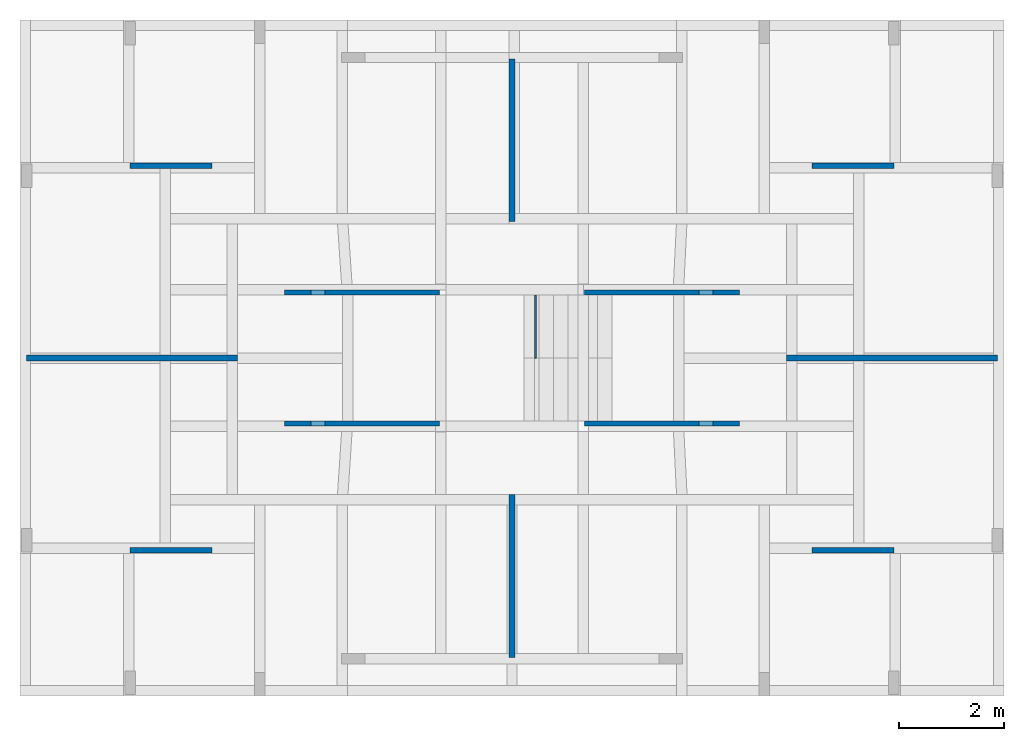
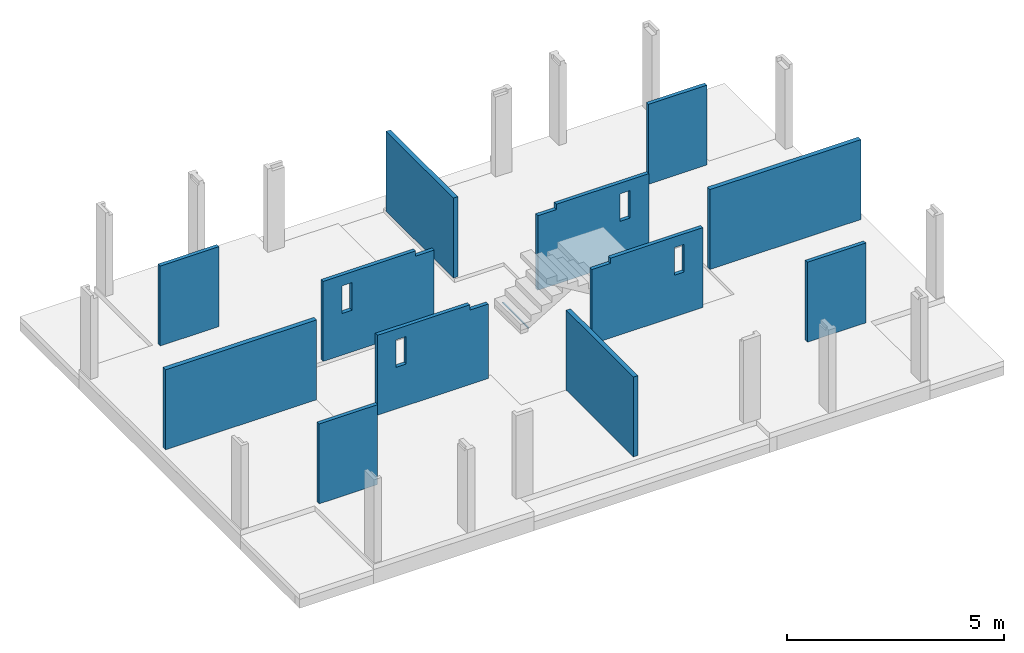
# One storey, part 5 of 7: 12 walls, 1 stair, 6 openings.
"""IFC4 building model written with IfcOpenShell, lengths in metres."""

from ifc_helpers import new_model, entity, si_unit, converted_unit, derived_unit, direction, frame, origin, place, context, subcontext, project, spatial, indexed_curve, outline, extrude, polygons, material, type_object, element, save


model = new_model("IFC4")

# Units and contexts
model_context = context("Model", 3, precision=1e-05, world=origin(), true_north=direction((6.123031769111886e-17, 1.0)))
body_context = subcontext(model_context, "Body", "Model", "MODEL_VIEW")
ifc_project = project(units=[si_unit("LENGTHUNIT", "METRE"), si_unit("AREAUNIT", "SQUARE_METRE"), si_unit("VOLUMEUNIT", "CUBIC_METRE"), converted_unit("PLANEANGLEUNIT", "DEGREE", entity("IfcRatioMeasure", 0.017453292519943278), si_unit("PLANEANGLEUNIT", "RADIAN"), dimensions=[0, 0, 0, 0, 0, 0, 0]), si_unit("MASSUNIT", "GRAM", prefix="KILO"), derived_unit("MASSDENSITYUNIT", [(si_unit("MASSUNIT", "GRAM", prefix="KILO"), 1), (si_unit("LENGTHUNIT", "METRE"), -3)]), derived_unit("IONCONCENTRATIONUNIT", [(si_unit("MASSUNIT", "GRAM", prefix="KILO"), 1), (si_unit("LENGTHUNIT", "METRE"), -3)]), derived_unit("MOMENTOFINERTIAUNIT", [(si_unit("LENGTHUNIT", "METRE"), 4)]), si_unit("TIMEUNIT", "SECOND"), si_unit("FREQUENCYUNIT", "HERTZ"), si_unit("THERMODYNAMICTEMPERATUREUNIT", "DEGREE_CELSIUS"), derived_unit("THERMALTRANSMITTANCEUNIT", [(si_unit("MASSUNIT", "GRAM", prefix="KILO"), 1), (si_unit("THERMODYNAMICTEMPERATUREUNIT", "KELVIN"), -1), (si_unit("TIMEUNIT", "SECOND"), -3)]), derived_unit("THERMALCONDUCTANCEUNIT", [(si_unit("MASSUNIT", "GRAM", prefix="KILO"), 1), (si_unit("THERMODYNAMICTEMPERATUREUNIT", "KELVIN"), -1), (si_unit("TIMEUNIT", "SECOND"), -3), (si_unit("LENGTHUNIT", "METRE"), 1)]), derived_unit("VOLUMETRICFLOWRATEUNIT", [(si_unit("LENGTHUNIT", "METRE"), 3), (si_unit("TIMEUNIT", "SECOND"), -1)]), derived_unit("MASSFLOWRATEUNIT", [(si_unit("MASSUNIT", "GRAM", prefix="KILO"), 1), (si_unit("TIMEUNIT", "SECOND"), -1)]), derived_unit("ROTATIONALFREQUENCYUNIT", [(si_unit("TIMEUNIT", "SECOND"), -1)]), si_unit("ELECTRICCURRENTUNIT", "AMPERE"), si_unit("ELECTRICVOLTAGEUNIT", "VOLT"), si_unit("POWERUNIT", "WATT"), si_unit("FORCEUNIT", "NEWTON", prefix="KILO"), si_unit("ILLUMINANCEUNIT", "LUX"), si_unit("LUMINOUSFLUXUNIT", "LUMEN"), si_unit("LUMINOUSINTENSITYUNIT", "CANDELA"), derived_unit("USERDEFINED", [(si_unit("MASSUNIT", "GRAM", prefix="KILO"), -1), (si_unit("LENGTHUNIT", "METRE"), -2), (si_unit("TIMEUNIT", "SECOND"), 3), (si_unit("LUMINOUSFLUXUNIT", "LUMEN"), 1)]), derived_unit("USERDEFINED", [(si_unit("MASSUNIT", "GRAM", prefix="KILO"), 1), (si_unit("TIMEUNIT", "SECOND"), -3), (si_unit("LENGTHUNIT", "METRE"), 3), (si_unit("ELECTRICCURRENTUNIT", "AMPERE"), -2)]), derived_unit("SOUNDPOWERUNIT", [(si_unit("MASSUNIT", "GRAM", prefix="KILO"), 1), (si_unit("TIMEUNIT", "SECOND"), -3), (si_unit("LENGTHUNIT", "METRE"), 2)]), derived_unit("SOUNDPRESSUREUNIT", [(si_unit("MASSUNIT", "GRAM", prefix="KILO"), 1), (si_unit("LENGTHUNIT", "METRE"), -1), (si_unit("TIMEUNIT", "SECOND"), -2)]), derived_unit("LINEARVELOCITYUNIT", [(si_unit("LENGTHUNIT", "METRE"), 1), (si_unit("TIMEUNIT", "SECOND"), -1)]), si_unit("PRESSUREUNIT", "PASCAL"), derived_unit("USERDEFINED", [(si_unit("MASSUNIT", "GRAM", prefix="KILO"), 1), (si_unit("LENGTHUNIT", "METRE"), -2), (si_unit("TIMEUNIT", "SECOND"), -2)]), derived_unit("LINEARFORCEUNIT", [(si_unit("MASSUNIT", "GRAM", prefix="KILO"), 1), (si_unit("TIMEUNIT", "SECOND"), -2)]), derived_unit("PLANARFORCEUNIT", [(si_unit("MASSUNIT", "GRAM", prefix="KILO"), 1), (si_unit("LENGTHUNIT", "METRE"), -1), (si_unit("TIMEUNIT", "SECOND"), -2)]), derived_unit("SPECIFICHEATCAPACITYUNIT", [(si_unit("THERMODYNAMICTEMPERATUREUNIT", "KELVIN"), -1), (si_unit("LENGTHUNIT", "METRE"), 2), (si_unit("TIMEUNIT", "SECOND"), -2)]), derived_unit("HEATINGVALUEUNIT", [(si_unit("LENGTHUNIT", "METRE"), 2), (si_unit("TIMEUNIT", "SECOND"), -2)]), derived_unit("VAPORPERMEABILITYUNIT", [(si_unit("LENGTHUNIT", "METRE"), -1), (si_unit("TIMEUNIT", "SECOND"), 1)]), derived_unit("DYNAMICVISCOSITYUNIT", [(si_unit("MASSUNIT", "GRAM", prefix="KILO"), 1), (si_unit("TIMEUNIT", "SECOND"), -1), (si_unit("LENGTHUNIT", "METRE"), -1)]), derived_unit("THERMALEXPANSIONCOEFFICIENTUNIT", [(si_unit("THERMODYNAMICTEMPERATUREUNIT", "KELVIN"), -1)]), derived_unit("MODULUSOFELASTICITYUNIT", [(si_unit("MASSUNIT", "GRAM", prefix="KILO"), 1), (si_unit("LENGTHUNIT", "METRE"), -1), (si_unit("TIMEUNIT", "SECOND"), -2)]), derived_unit("ISOTHERMALMOISTURECAPACITYUNIT", [(si_unit("LENGTHUNIT", "METRE"), 3), (si_unit("MASSUNIT", "GRAM", prefix="KILO"), -1)]), derived_unit("MOISTUREDIFFUSIVITYUNIT", [(si_unit("TIMEUNIT", "SECOND"), -1), (si_unit("LENGTHUNIT", "METRE"), 2)])], contexts=[model_context])

# Site, building, storey
site_placement = place(None, origin())
site = spatial("IfcSite", under=ifc_project, at=site_placement, Name="Default", CompositionType="ELEMENT")
building_placement = place(site_placement, origin())
building = spatial("IfcBuilding", under=site, at=building_placement, Name="Las nubes", CompositionType="ELEMENT")
storey_placement = place(building_placement, origin())
storey = spatial("IfcBuildingStorey", under=building, at=storey_placement, Name="CIMENTACIÓN", CompositionType="ELEMENT", Elevation=-3.522347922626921e-13)

# Walls
ifc_material_1 = material(Name="Concrete - Cast-in-Place Concrete - 35 MPa", Category="Materials")
wall_type_1 = type_object("IfcWallType", Name="Basic Wall:MURO 12cm", PredefinedType="STANDARD")
wall_1_placement = place(storey_placement, frame((9.322500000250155, -12.129999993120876, 0.0), z_axis=(0.0, 0.0, 1.0), x_axis=(0.0, 1.0, 0.0)))
element("IfcWall", 1, at=wall_1_placement, inside=storey, type_object=wall_type_1, material=ifc_material_1, Name="Basic Wall:MURO 12cm", ObjectType="Basic Wall:MURO 12cm", PredefinedType="NOTDEFINED", context=body_context, shape_type="SweptSolid", body=[
    extrude(outline(indexed_curve([(3.105, 0.060000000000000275), (-1.0151879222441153e-16, 0.060000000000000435), (1.0151879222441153e-16, -0.060000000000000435), (3.105, -0.0600000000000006), (3.105, 0.060000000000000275)], self_intersect=False)), origin(), (0.0, 0.0, 1.0), 2.25),
])
wall_2_placement = place(storey_placement, frame((9.322500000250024, -0.7200000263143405, 0.0), z_axis=(0.0, 0.0, 1.0), x_axis=(0.0, -1.0, 0.0)))
element("IfcWall", 2, at=wall_2_placement, inside=storey, type_object=wall_type_1, material=ifc_material_1, Name="Basic Wall:MURO 12cm", ObjectType="Basic Wall:MURO 12cm", PredefinedType="NOTDEFINED", context=body_context, shape_type="SweptSolid", body=[
    extrude(outline(indexed_curve([(3.1050000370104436, 0.060000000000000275), (3.383959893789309e-17, 0.060000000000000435), (1.0151879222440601e-16, -0.060000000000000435), (3.1050000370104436, -0.0600000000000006), (3.1050000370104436, 0.060000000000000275)], self_intersect=False)), origin(), (0.0, 0.0, 1.0), 2.25),
])
wall_3_placement = place(storey_placement, frame((18.57750000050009, -6.425000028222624, 0.0), z_axis=(0.0, 0.0, 1.0), x_axis=(-1.0, 0.0, 0.0)))
element("IfcWall", 3, at=wall_3_placement, inside=storey, type_object=wall_type_1, material=ifc_material_1, Name="Basic Wall:MURO 12cm", ObjectType="Basic Wall:MURO 12cm", PredefinedType="NOTDEFINED", context=body_context, shape_type="SweptSolid", body=[
    extrude(outline(indexed_curve([(4.01999999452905, 0.06000000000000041), (-1.934650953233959e-16, 0.060000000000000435), (1.934650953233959e-16, -0.060000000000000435), (4.01999999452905, -0.06000000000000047), (4.01999999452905, 0.06000000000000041)], self_intersect=False)), origin(), (0.0, 0.0, 1.0), 2.25),
])
wall_4_placement = place(storey_placement, frame((0.06750000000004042, -6.425000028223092, 0.0)))
element("IfcWall", 4, at=wall_4_placement, inside=storey, type_object=wall_type_1, material=ifc_material_1, Name="Basic Wall:MURO 12cm", ObjectType="Basic Wall:MURO 12cm", PredefinedType="NOTDEFINED", context=body_context, shape_type="SweptSolid", body=[
    extrude(outline(indexed_curve([(4.0199999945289, 0.060000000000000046), (-1.9797595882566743e-18, 0.060000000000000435), (1.9797595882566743e-18, -0.060000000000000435), (4.0199999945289, -0.06000000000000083), (4.0199999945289, 0.060000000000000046)], self_intersect=False)), origin(), (0.0, 0.0, 1.0), 2.25),
])
wall_type_2 = type_object("IfcWallType", Name="Basic Wall:MURO 10cm", PredefinedType="STANDARD")
wall_5_placement = place(storey_placement, frame((3.602499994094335, -10.090000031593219, 0.0), z_axis=(0.0, 0.0, 1.0), x_axis=(-1.0, 0.0, 0.0)))
element("IfcWall", 5, at=wall_5_placement, inside=storey, type_object=wall_type_2, material=ifc_material_1, Name="Basic Wall:MURO 10cm", ObjectType="Basic Wall:MURO 10cm", PredefinedType="NOTDEFINED", context=body_context, shape_type="SweptSolid", body=[
    extrude(outline(indexed_curve([(1.5599999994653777, 0.049999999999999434), (-1.3794485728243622e-16, 0.04999999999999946), (1.3794485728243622e-16, -0.04999999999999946), (1.5599999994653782, -0.04999999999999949), (1.5599999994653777, 0.049999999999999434)], self_intersect=False)), origin(), (0.0, 0.0, 1.0), 2.25),
])
wall_6_placement = place(storey_placement, frame((15.04250000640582, -10.090000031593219, 0.0)))
element("IfcWall", 6, at=wall_6_placement, inside=storey, type_object=wall_type_2, material=ifc_material_1, Name="Basic Wall:MURO 10cm", ObjectType="Basic Wall:MURO 10cm", PredefinedType="NOTDEFINED", context=body_context, shape_type="SweptSolid", body=[
    extrude(outline(indexed_curve([(1.5599999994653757, 0.049999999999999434), (-1.3794485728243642e-16, 0.04999999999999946), (1.3794485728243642e-16, -0.04999999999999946), (1.5599999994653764, -0.04999999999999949), (1.5599999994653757, 0.049999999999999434)], self_intersect=False)), origin(), (0.0, 0.0, 1.0), 2.25),
])
wall_7_placement = place(storey_placement, frame((15.042500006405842, -2.7600000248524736, 0.0)))
element("IfcWall", 7, at=wall_7_placement, inside=storey, type_object=wall_type_2, material=ifc_material_1, Name="Basic Wall:MURO 10cm", ObjectType="Basic Wall:MURO 10cm", PredefinedType="NOTDEFINED", context=body_context, shape_type="SweptSolid", body=[
    extrude(outline(indexed_curve([(1.5600000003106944, 0.05), (-1.5618275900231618e-16, 0.05), (1.5618275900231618e-16, -0.05), (1.5600000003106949, -0.05), (1.5600000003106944, 0.05)], self_intersect=False)), origin(), (0.0, 0.0, 1.0), 2.25),
])
wall_8_placement = place(storey_placement, frame((3.6024999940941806, -2.7600000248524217, 0.0), z_axis=(0.0, 0.0, 1.0), x_axis=(-1.0, 0.0, 0.0)))
element("IfcWall", 8, at=wall_8_placement, inside=storey, type_object=wall_type_2, material=ifc_material_1, Name="Basic Wall:MURO 10cm", ObjectType="Basic Wall:MURO 10cm", PredefinedType="NOTDEFINED", context=body_context, shape_type="SweptSolid", body=[
    extrude(outline(indexed_curve([(1.5600000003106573, 0.05), (-1.5618275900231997e-16, 0.05), (1.5618275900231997e-16, -0.05), (1.5600000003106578, -0.05), (1.5600000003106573, 0.05)], self_intersect=False)), origin(), (0.0, 0.0, 1.0), 2.25),
])

# Wall, opening
wall_9_placement = place(storey_placement, frame((13.657500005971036, -5.17500002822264, 0.0), z_axis=(0.0, 0.0, 1.0), x_axis=(-1.0, 0.0, 0.0)))
wall_9 = element("IfcWall", 9, at=wall_9_placement, inside=storey, type_object=wall_type_2, material=ifc_material_1, Name="Basic Wall:MURO 10cm", ObjectType="Basic Wall:MURO 10cm", PredefinedType="NOTDEFINED", context=body_context, shape_type="Tessellation", body=[
    polygons([(8.007304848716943e-16, -0.04999999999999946, 0.0), (2.9550296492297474, -0.04999999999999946, -3.0340084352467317e-27), (2.9550296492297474, -0.04999999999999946, 2.1000000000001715), (2.4600000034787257, -0.04999999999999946, 2.1000000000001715), (2.4600000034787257, -0.04999999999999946, 2.25), (8.007304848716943e-16, -0.04999999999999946, 2.25), (0.7651124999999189, -0.04999999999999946, 1.1737125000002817), (0.4999999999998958, -0.04999999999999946, 1.1737125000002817), (0.4999999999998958, -0.04999999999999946, 1.9500000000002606), (0.7651124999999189, -0.04999999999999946, 1.9500000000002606), (2.9550296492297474, 0.050000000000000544, -3.0340084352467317e-27), (4.782886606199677e-16, 0.050000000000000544, 0.0), (4.782886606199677e-16, 0.050000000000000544, 2.25), (2.4600000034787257, 0.050000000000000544, 2.25), (2.4600000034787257, 0.05000000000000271, 2.1000000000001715), (2.9550296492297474, 0.050000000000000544, 2.1000000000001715), (0.4999999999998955, 0.050000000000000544, 1.1737125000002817), (0.7651124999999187, 0.050000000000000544, 1.1737125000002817), (0.7651124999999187, 0.050000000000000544, 1.9500000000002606), (0.4999999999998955, 0.050000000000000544, 1.9500000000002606)], [[[1, 2, 3, 4, 5, 6], [7, 8, 9, 10]], [[11, 12, 13, 14, 15, 16], [17, 18, 19, 20]], [[4, 15, 14, 5]], [[15, 4, 3, 16]], [[2, 1, 12, 11]], [[2, 11, 16, 3]], [[13, 6, 5, 14]], [[1, 6, 13, 12]], [[8, 7, 18, 17]], [[9, 8, 17, 20]], [[10, 9, 20, 19]], [[7, 10, 19, 18]]], closed=True),
])
opening_1_placement = place(wall_9_placement, origin())
element("IfcOpeningElement", 10, at=opening_1_placement, cuts=wall_9, Name="Basic Wall:MURO 10cm", PredefinedType="OPENING", context=body_context, shape_type="SweptSolid", body=[
    extrude(outline(indexed_curve([(-0.38814374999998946, -0.1325562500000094), (0.3881437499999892, -0.1325562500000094), (0.3881437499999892, 0.13255625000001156), (-0.38814374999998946, 0.13255625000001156), (-0.38814374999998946, -0.1325562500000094)], self_intersect=False)), frame((0.6325562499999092, 0.04999999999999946, 1.5618562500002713), z_axis=(0.0, -1.0, 0.0), x_axis=(0.0, 0.0, 1.0)), (0.0, 0.0, 1.0), 0.1),
])

wall_10_placement = place(storey_placement, frame((7.942500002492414, -7.675000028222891, 0.0), z_axis=(0.0, 0.0, 1.0), x_axis=(-1.0, 0.0, 0.0)))
wall_10 = element("IfcWall", 11, at=wall_10_placement, inside=storey, type_object=wall_type_2, material=ifc_material_1, Name="Basic Wall:MURO 10cm", ObjectType="Basic Wall:MURO 10cm", PredefinedType="NOTDEFINED", context=body_context, shape_type="Tessellation", body=[
    polygons([(3.481298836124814e-16, -0.04999999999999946, -1.4920577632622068e-43), (2.9550000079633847, -0.04999999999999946, -3.0340084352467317e-27), (2.9550000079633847, -0.04999999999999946, 2.25), (0.49499999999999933, -0.050000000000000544, 2.25), (0.49499999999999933, -0.04999999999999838, 2.1000000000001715), (3.481298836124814e-16, -0.04999999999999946, 2.1000000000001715), (2.455000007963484, -0.050000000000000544, 1.1737125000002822), (2.189887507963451, -0.04999999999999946, 1.1737125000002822), (2.189887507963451, -0.04999999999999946, 1.9500000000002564), (2.455000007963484, -0.050000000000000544, 1.9500000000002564), (2.9550000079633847, 0.04999999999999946, -3.0340084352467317e-27), (4.947108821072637e-16, 0.050000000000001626, -1.4920577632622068e-43), (4.947108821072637e-16, 0.050000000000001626, 2.1000000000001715), (0.4949999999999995, 0.05000000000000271, 2.1000000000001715), (0.4949999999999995, 0.050000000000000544, 2.25), (2.9550000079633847, 0.04999999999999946, 2.25), (2.189887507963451, 0.050000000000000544, 1.1737125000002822), (2.455000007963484, 0.04999999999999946, 1.1737125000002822), (2.455000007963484, 0.04999999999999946, 1.9500000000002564), (2.189887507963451, 0.050000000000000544, 1.9500000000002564)], [[[1, 2, 3, 4, 5, 6], [7, 8, 9, 10]], [[11, 12, 13, 14, 15, 16], [17, 18, 19, 20]], [[14, 5, 4, 15]], [[5, 14, 13, 6]], [[2, 1, 12, 11]], [[3, 2, 11, 16]], [[3, 16, 15, 4]], [[12, 1, 6, 13]], [[8, 7, 18, 17]], [[9, 8, 17, 20]], [[10, 9, 20, 19]], [[7, 10, 19, 18]]], closed=True),
])
opening_2_placement = place(wall_10_placement, origin())
element("IfcOpeningElement", 12, at=opening_2_placement, cuts=wall_10, Name="Basic Wall:MURO 10cm", PredefinedType="OPENING", context=body_context, shape_type="SweptSolid", body=[
    extrude(outline(indexed_curve([(-0.388143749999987, -0.1325562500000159), (0.3881437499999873, -0.1325562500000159), (0.3881437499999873, 0.13255625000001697), (-0.388143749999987, 0.13255625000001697), (-0.388143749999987, -0.1325562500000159)], self_intersect=False)), frame((2.3224437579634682, 0.04999999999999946, 1.5618562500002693), z_axis=(0.0, -1.0, 0.0), x_axis=(0.0, 0.0, 1.0)), (0.0, 0.0, 1.0), 0.1),
])

# Wall, openings
wall_11_placement = place(storey_placement, frame((7.942500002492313, -5.175000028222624, 0.0), z_axis=(0.0, 0.0, 1.0), x_axis=(-1.0, 0.0, 0.0)))
wall_11 = element("IfcWall", 13, at=wall_11_placement, inside=storey, type_object=wall_type_2, material=ifc_material_1, Name="Basic Wall:MURO 10cm", ObjectType="Basic Wall:MURO 10cm", PredefinedType="NOTDEFINED", context=body_context, shape_type="Tessellation", body=[
    polygons([(2.9550000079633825, -0.050000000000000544, 2.25), (0.4950000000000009, -0.050000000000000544, 2.25), (0.4950000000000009, -0.050000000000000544, 2.0999999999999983), (8.00730484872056e-16, -0.050000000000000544, 2.0999999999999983), (8.00730484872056e-16, -0.050000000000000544, 0.0), (2.9550000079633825, -0.050000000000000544, 0.0), (2.4550000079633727, -0.050000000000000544, 1.1737125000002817), (2.189887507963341, -0.050000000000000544, 1.1737125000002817), (2.189887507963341, -0.050000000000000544, 1.950000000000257), (2.4550000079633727, -0.050000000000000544, 1.950000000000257), (2.9550000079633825, 0.04999999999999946, 2.25), (2.9550000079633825, 0.04999999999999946, 0.0), (4.78288660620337e-16, 0.04999999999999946, 0.0), (4.78288660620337e-16, 0.04999999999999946, 2.0999999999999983), (0.49500000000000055, 0.04999999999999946, 2.0999999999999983), (0.49500000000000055, 0.04999999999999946, 2.25), (2.4550000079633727, 0.04999999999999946, 1.1737125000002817), (2.4550000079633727, 0.04999999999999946, 1.950000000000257), (2.189887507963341, 0.04999999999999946, 1.950000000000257), (2.189887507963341, 0.04999999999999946, 1.1737125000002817)], [[[1, 2, 3, 4, 5, 6], [7, 8, 9, 10]], [[11, 12, 13, 14, 15, 16], [17, 18, 19, 20]], [[2, 1, 11, 16]], [[4, 3, 15, 14]], [[3, 2, 16, 15]], [[1, 6, 12, 11]], [[5, 4, 14, 13]], [[6, 5, 13, 12]], [[8, 7, 17, 20]], [[9, 8, 20, 19]], [[10, 9, 19, 18]], [[7, 10, 18, 17]]], closed=True),
])
opening_3_placement = place(wall_11_placement, origin())
element("IfcOpeningElement", 14, at=opening_3_placement, cuts=wall_11, Name="Basic Wall:MURO 10cm", PredefinedType="OPENING", context=body_context, shape_type="SweptSolid", body=[
    extrude(outline(indexed_curve([(-0.3881437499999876, -0.1325562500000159), (0.38814374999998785, -0.1325562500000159), (0.38814374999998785, 0.1325562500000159), (-0.3881437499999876, 0.1325562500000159), (-0.3881437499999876, -0.1325562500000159)], self_intersect=False)), frame((2.322443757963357, 0.050000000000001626, 1.5618562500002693), z_axis=(0.0, -1.0, 0.0), x_axis=(0.0, 0.0, 1.0)), (0.0, 0.0, 1.0), 0.1),
])
opening_4_placement = place(wall_11_placement, origin())
element("IfcOpeningElement", 15, at=opening_4_placement, cuts=wall_11, Name="Basic Wall:MURO 10cm", PredefinedType="OPENING", context=body_context, shape_type="SweptSolid", body=[
    extrude(outline(indexed_curve([(-0.24750000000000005, -0.07500000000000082), (0.24750000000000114, -0.07500000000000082), (0.24750000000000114, 0.07500000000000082), (-0.24750000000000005, 0.07500000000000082), (-0.24750000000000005, -0.07500000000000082)], self_intersect=False)), frame((0.24750000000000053, 0.050000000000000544, 2.174999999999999), z_axis=(0.0, -1.0, 0.0), x_axis=(-1.0, 0.0, 0.0)), (0.0, 0.0, 1.0), 0.1),
])

wall_12_placement = place(storey_placement, frame((10.702499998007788, -7.675000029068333, 0.0)))
wall_12 = element("IfcWall", 16, at=wall_12_placement, inside=storey, type_object=wall_type_2, material=ifc_material_1, Name="Basic Wall:MURO 10cm", ObjectType="Basic Wall:MURO 10cm", PredefinedType="NOTDEFINED", context=body_context, shape_type="Tessellation", body=[
    polygons([(2.1898875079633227, -0.050000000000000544, 1.1737125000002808), (2.1898875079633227, -0.050000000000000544, 1.9500000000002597), (2.4550000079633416, -0.04999999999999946, 1.9500000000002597), (2.4550000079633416, -0.04999999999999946, 1.1737125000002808), (0.4905227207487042, -0.049999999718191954, 2.1000000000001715), (8.437227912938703e-16, -0.050000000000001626, 2.0999999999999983), (8.437227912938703e-16, -0.050000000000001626, 0.0), (2.9550000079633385, -0.050000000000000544, 0.0), (2.9550000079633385, -0.050000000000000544, 2.25), (0.4905227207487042, -0.050000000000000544, 2.25), (2.189887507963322, 0.04999999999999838, 1.9500000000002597), (2.189887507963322, 0.04999999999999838, 1.1737125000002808), (2.455000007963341, 0.04999999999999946, 1.1737125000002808), (2.455000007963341, 0.04999999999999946, 1.9500000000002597), (6.645884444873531e-16, 0.04999999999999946, 2.0999999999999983), (0.49052272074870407, 0.05000000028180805, 2.1000000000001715), (0.49052272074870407, 0.050000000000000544, 2.25), (2.955000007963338, 0.04999999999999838, 2.25), (2.955000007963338, 0.04999999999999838, 0.0), (6.645884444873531e-16, 0.04999999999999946, 0.0)], [[[5, 6, 7, 8, 9, 10], [1, 2, 3, 4]], [[15, 16, 17, 18, 19, 20], [11, 12, 13, 14]], [[9, 18, 17, 10]], [[5, 16, 15, 6]], [[9, 8, 19, 18]], [[7, 6, 15, 20]], [[8, 7, 20, 19]], [[16, 5, 10, 17]], [[2, 1, 12, 11]], [[3, 2, 11, 14]], [[4, 3, 14, 13]], [[1, 4, 13, 12]]], closed=True),
])
opening_5_placement = place(wall_12_placement, origin())
element("IfcOpeningElement", 17, at=opening_5_placement, cuts=wall_12, Name="Basic Wall:MURO 10cm", PredefinedType="OPENING", context=body_context, shape_type="SweptSolid", body=[
    extrude(outline(indexed_curve([(-0.1325562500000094, -0.38814374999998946), (0.13255625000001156, -0.38814374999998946), (0.13255625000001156, 0.38814374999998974), (-0.1325562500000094, 0.38814374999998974), (-0.1325562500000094, -0.38814374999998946)], self_intersect=False)), frame((2.322443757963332, 0.050000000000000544, 1.5618562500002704), z_axis=(0.0, -1.0, 0.0), x_axis=(1.0, 0.0, 0.0)), (0.0, 0.0, 1.0), 0.1),
])
opening_6_placement = place(wall_12_placement, origin())
element("IfcOpeningElement", 18, at=opening_6_placement, cuts=wall_12, Name="Basic Wall:MURO 10cm", PredefinedType="OPENING", context=body_context, shape_type="SweptSolid", body=[
    extrude(outline(indexed_curve([(-0.24499999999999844, -0.07500000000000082), (0.24499999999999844, -0.07500000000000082), (0.24499999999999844, 0.07500000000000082), (-0.24499999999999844, 0.07500000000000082), (-0.24499999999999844, -0.07500000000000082)], self_intersect=False)), frame((0.24499999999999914, 0.050000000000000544, 2.174999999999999), z_axis=(0.0, -1.0, 0.0), x_axis=(-1.0, 0.0, 0.0)), (0.0, 0.0, 1.0), 0.1),
])

# Stair
ifc_material_2 = material(Name="Concrete, Cast-in-Place gray", Category="Materials")
stair_type = type_object("IfcStairType", Name="GTHBHB:GTHBHB", PredefinedType="NOTDEFINED")
stair_placement = place(storey_placement, origin())
element("IfcStair", 19, at=stair_placement, inside=storey, type_object=stair_type, material=ifc_material_2, Name="GTHBHB:GTHBHB", ObjectType="GTHBHB:GTHBHB", PredefinedType="NOTDEFINED", context=body_context, shape_type="SweptSolid", body=[
    extrude(outline(indexed_curve([(-0.02251880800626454, -0.005721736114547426), (0.016404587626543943, -0.005721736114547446), (0.006114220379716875, 0.011443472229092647), (-0.02251880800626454, -0.005721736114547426)], self_intersect=False)), frame((9.763628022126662, -6.4250000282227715, -0.006671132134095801), z_axis=(0.0, 1.0, 0.0), x_axis=(-0.857685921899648, 0.0, -0.5141739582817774)), (0.0, 0.0, 1.0), 1.2000000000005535),
])

save(model, "model.ifc")
